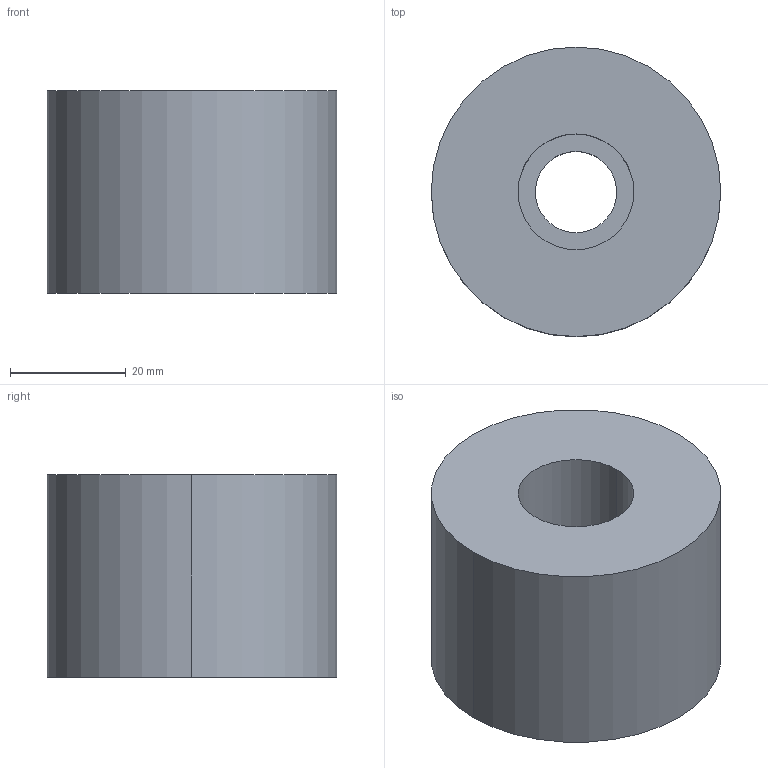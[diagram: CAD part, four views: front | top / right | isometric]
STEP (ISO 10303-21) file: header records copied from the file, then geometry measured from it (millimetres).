
FILE_DESCRIPTION(/* description */ (''),/* implementation_level */ '2;1');
FILE_NAME(/* name */ '3d_azn50-35_03251_r00.stp',/* time_stamp */ '2011-01-10T14:17:33+09:00',/* author */ ('MISUMI'),/* organization */ (''),/* preprocessor_version */ 'ST-DEVELOPER v11',/* originating_system */ 'UGS - NX 5.0',/* authorisation */ '');
FILE_SCHEMA (('CONFIG_CONTROL_DESIGN'));
Length unit declared in the file: millimetre
Products named in the file (1): 3d_azn50-35_03251_r00
Bounding box: 50 x 50 x 35 mm (x, y, z)
Volume: 59329 mm3; surface area: 11127.5 mm2
Topology: 1 solids, 1 shells, 9 faces, 18 edges, 12 vertices
Faces by surface type: cylinder 6, plane 3
Entity records: 334 total; most frequent: DIRECTION 50, CARTESIAN_POINT 40, ORIENTED_EDGE 36, AXIS2_PLACEMENT_3D 22, EDGE_CURVE 18, EDGE_LOOP 12, VERTEX_POINT 12, CIRCLE 12
